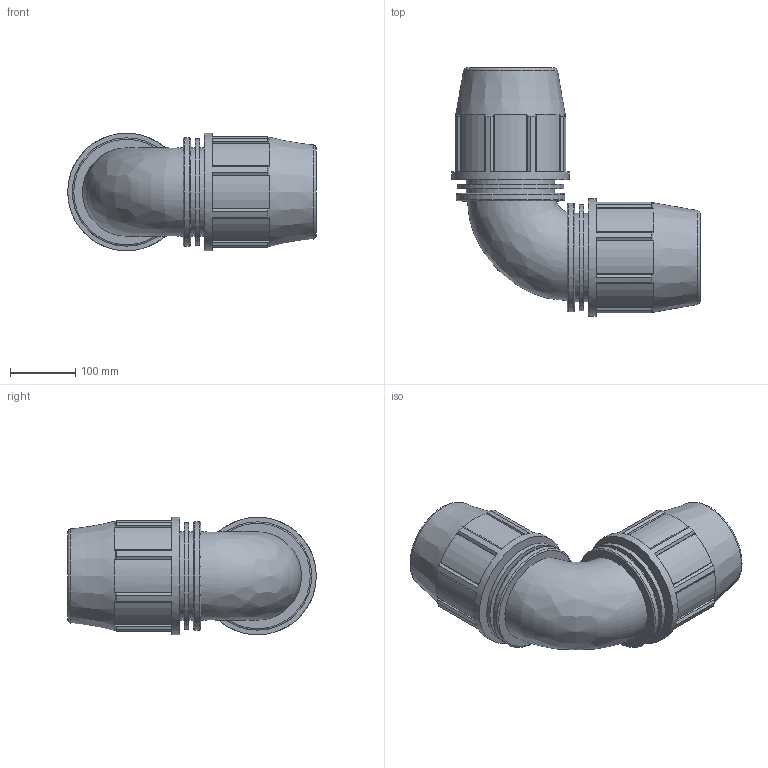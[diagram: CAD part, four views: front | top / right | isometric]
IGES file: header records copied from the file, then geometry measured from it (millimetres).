
Global section: file name: 0705061100A.ipt; native system: Autodesk Inventor 2015; preprocessor: unknown; author: KIM; date: 20180325.201210; units: millimetre
Bounding box: 382.5 x 382.5 x 181 mm (x, y, z)
Volume: 5606443.5 mm3; surface area: 570213.7 mm2
Topology: 1 solids, 1 shells, 156 faces, 438 edges, 298 vertices
Faces by surface type: plane 96, cylinder 26, cone 18, revolution 15, bspline 1
Full cylindrical faces by diameter (mm): 135.75 x4, 163.19 x2, 166.52 x2, 181 x2
